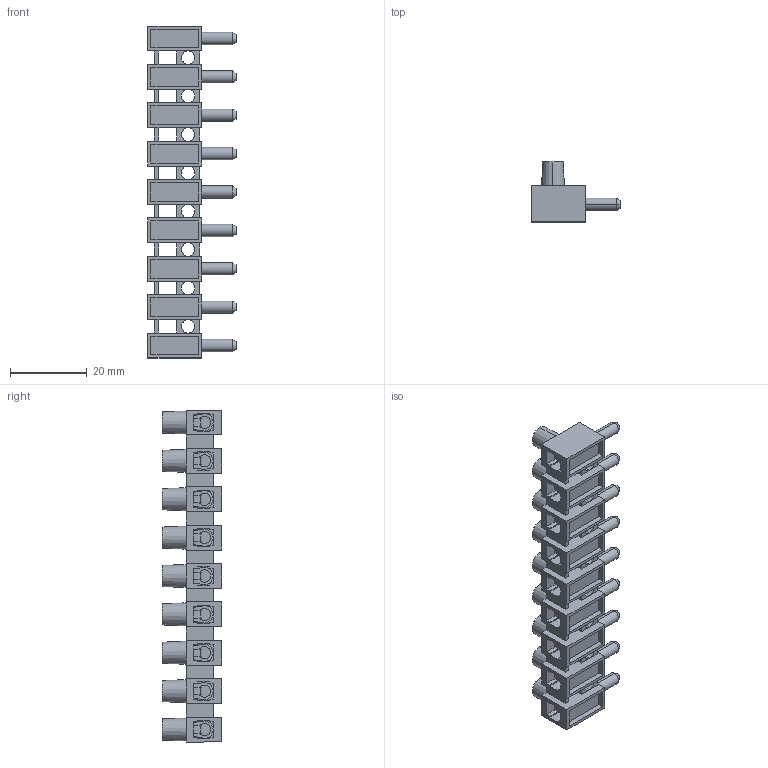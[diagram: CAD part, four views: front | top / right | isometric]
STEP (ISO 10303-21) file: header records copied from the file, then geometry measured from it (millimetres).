
FILE_DESCRIPTION (( 'STEP AP214' ), '1' );
FILE_NAME ('322-STFS-DS-09.STEP', '2008-04-15T01:46:34', ( ' ' ), ( '' ), 'SwSTEP 2.0', 'SolidWorks 2007', '' );
FILE_SCHEMA (( 'AUTOMOTIVE_DESIGN' ));
Length unit declared in the file: millimetre
Products named in the file (1): 322-STFS-DS-09
Bounding box: 23 x 15.5 x 86.5 mm (x, y, z)
Volume: 8354.2 mm3; surface area: 10335.5 mm2
Topology: 1 solids, 1 shells, 1072 faces, 3064 edges, 2014 vertices
Faces by surface type: plane 687, cylinder 259, cone 81, bspline 45
Entity records: 37819 total; most frequent: CARTESIAN_POINT 9445, ORIENTED_EDGE 6128, DIRECTION 5701, EDGE_CURVE 3064, VECTOR 2105, LINE 2105, VERTEX_POINT 2014, AXIS2_PLACEMENT_3D 1798
